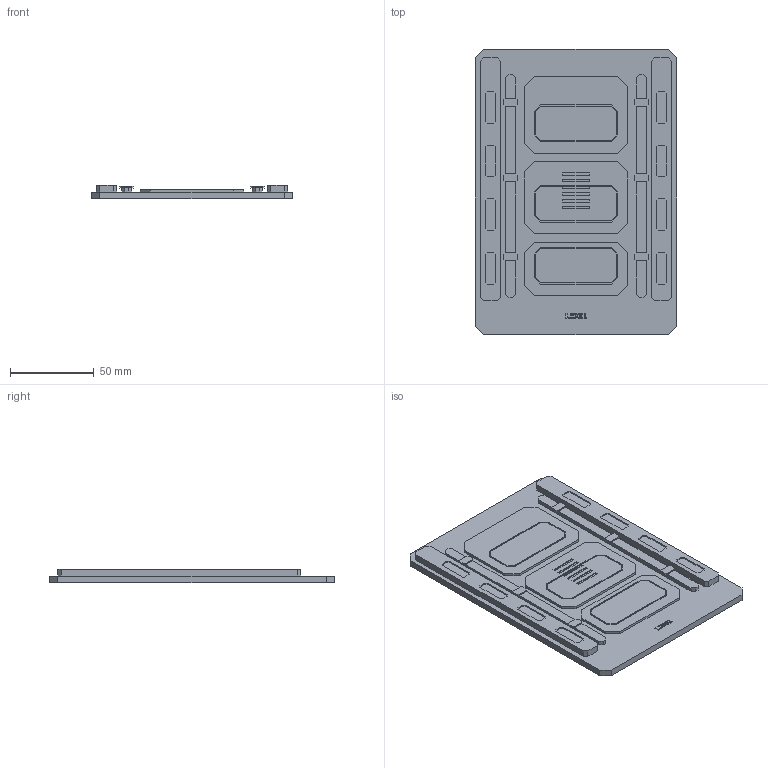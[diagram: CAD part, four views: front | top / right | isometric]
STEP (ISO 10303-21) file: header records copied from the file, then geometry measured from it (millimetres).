
FILE_DESCRIPTION(('Open CASCADE Model'),'2;1');
FILE_NAME('Open CASCADE Shape Model','2026-10-02T13:48:49',('Author'),( 'Open CASCADE'),'Open CASCADE STEP processor 7.8','Open CASCADE 7.8' ,'Unknown');
FILE_SCHEMA(('AUTOMOTIVE_DESIGN { 1 0 10303 214 1 1 1 1 }'));
Length unit declared in the file: millimetre
Products named in the file (1): Open CASCADE STEP translator 7.8 8
Bounding box: 120 x 170 x 8 mm (x, y, z)
Volume: 109205.6 mm3; surface area: 48921 mm2
Topology: 1 solids, 1 shells, 398 faces, 1053 edges, 694 vertices
Faces by surface type: plane 370, extrusion 28
Entity records: 25230 total; most frequent: CARTESIAN_POINT 5082, DIRECTION 3267, VECTOR 2525, LINE 2497, ORIENTED_EDGE 2106, PCURVE 2106, DEFINITIONAL_REPRESENTATION 2106, EDGE_CURVE 1053
